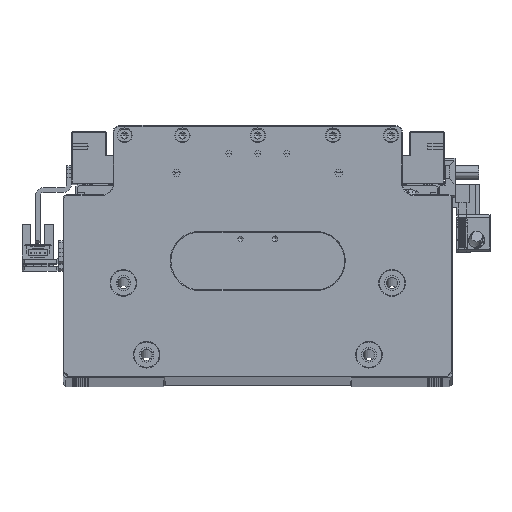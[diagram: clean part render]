
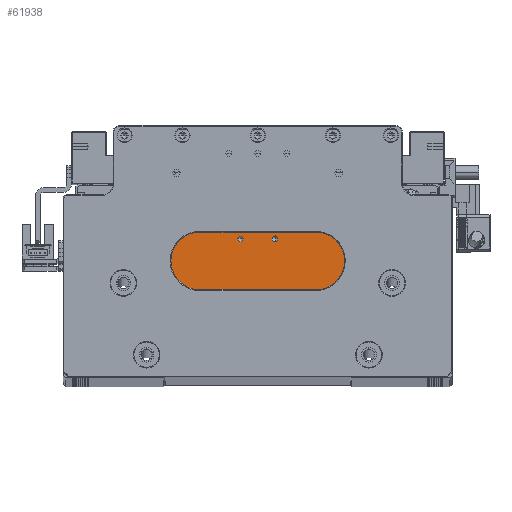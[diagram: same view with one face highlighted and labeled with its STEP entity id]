
A CAD part, top view. The second image highlights one B-rep face of the part: STEP entity #61938.
In plain terms, the highlighted planar face has unit normal (0, 0, 1).
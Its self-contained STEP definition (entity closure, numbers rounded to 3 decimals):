
#92 = VECTOR ( 'NONE', #27201, 1000. ) ;
#2307 = DIRECTION ( 'NONE',  ( 0., 0., -1. ) ) ;
#2342 = EDGE_CURVE ( 'NONE', #100865, #58362, #41398, .T. ) ;
#2742 = ORIENTED_EDGE ( 'NONE', *, *, #2342, .T. ) ;
#4515 = DIRECTION ( 'NONE',  ( 0., 0., -1. ) ) ;
#5444 = CARTESIAN_POINT ( 'NONE',  ( -7.5, -8., 125. ) ) ;
#6302 = DIRECTION ( 'NONE',  ( -1., 0., 0. ) ) ;
#7083 = LINE ( 'NONE', #49090, #79369 ) ;
#10473 = CIRCLE ( 'NONE', #57200, 1.25 ) ;
#11569 = DIRECTION ( 'NONE',  ( -1., 0., 0. ) ) ;
#12328 = VECTOR ( 'NONE', #109025, 1000. ) ;
#13981 = DIRECTION ( 'NONE',  ( 0., 1., 0. ) ) ;
#14222 = CARTESIAN_POINT ( 'NONE',  ( -45., 0., 125. ) ) ;
#14903 = DIRECTION ( 'NONE',  ( 1., 0., 0. ) ) ;
#15203 = EDGE_CURVE ( 'NONE', #42259, #76106, #41231, .T. ) ;
#16249 = VECTOR ( 'NONE', #13981, 1000. ) ;
#17624 = AXIS2_PLACEMENT_3D ( 'NONE', #61005, #4515, #70480 ) ;
#18166 = VERTEX_POINT ( 'NONE', #73660 ) ;
#18176 = DIRECTION ( 'NONE',  ( 0., 0., -1. ) ) ;
#20321 = VERTEX_POINT ( 'NONE', #97266 ) ;
#25304 = VERTEX_POINT ( 'NONE', #56036 ) ;
#27201 = DIRECTION ( 'NONE',  ( 0., -1., 0. ) ) ;
#27604 = ORIENTED_EDGE ( 'NONE', *, *, #120031, .T. ) ;
#28263 = AXIS2_PLACEMENT_3D ( 'NONE', #63126, #91495, #35087 ) ;
#30954 = CIRCLE ( 'NONE', #17624, 1.25 ) ;
#34342 = CARTESIAN_POINT ( 'NONE',  ( 0., 0., 125. ) ) ;
#35087 = DIRECTION ( 'NONE',  ( 1., 0., 0. ) ) ;
#40131 = ORIENTED_EDGE ( 'NONE', *, *, #108868, .T. ) ;
#40154 = VERTEX_POINT ( 'NONE', #92571 ) ;
#41231 = LINE ( 'NONE', #34342, #44187 ) ;
#41351 = LINE ( 'NONE', #51137, #16249 ) ;
#41398 = CIRCLE ( 'NONE', #55868, 1.25 ) ;
#42259 = VERTEX_POINT ( 'NONE', #93203 ) ;
#44187 = VECTOR ( 'NONE', #6302, 1000. ) ;
#45774 = CARTESIAN_POINT ( 'NONE',  ( -33.5, 0., 125. ) ) ;
#46815 = CARTESIAN_POINT ( 'NONE',  ( 45., -8., 125. ) ) ;
#48007 = LINE ( 'NONE', #68030, #98056 ) ;
#49090 = CARTESIAN_POINT ( 'NONE',  ( 33.5, 0., 125. ) ) ;
#50234 = LINE ( 'NONE', #45774, #92 ) ;
#51137 = CARTESIAN_POINT ( 'NONE',  ( 45., 0., 125. ) ) ;
#51491 = VERTEX_POINT ( 'NONE', #107622 ) ;
#53640 = PLANE ( 'NONE',  #28263 ) ;
#54816 = ORIENTED_EDGE ( 'NONE', *, *, #108463, .T. ) ;
#55083 = LINE ( 'NONE', #14222, #105155 ) ;
#55868 = AXIS2_PLACEMENT_3D ( 'NONE', #5444, #71403, #14903 ) ;
#56036 = CARTESIAN_POINT ( 'NONE',  ( 8.75, -8., 125. ) ) ;
#57200 = AXIS2_PLACEMENT_3D ( 'NONE', #74709, #18176, #84133 ) ;
#58362 = VERTEX_POINT ( 'NONE', #114653 ) ;
#58787 = CARTESIAN_POINT ( 'NONE',  ( -7.5, -8., 125. ) ) ;
#59499 = CARTESIAN_POINT ( 'NONE',  ( -33.5, 0., 125. ) ) ;
#60334 = EDGE_CURVE ( 'NONE', #20321, #18166, #48007, .T. ) ;
#61005 = CARTESIAN_POINT ( 'NONE',  ( 7.5, -8., 125. ) ) ;
#61024 = EDGE_CURVE ( 'NONE', #107163, #70302, #94978, .T. ) ;
#61938 = ADVANCED_FACE ( 'NONE', ( #69723, #116793, #94756 ), #53640, .T. ) ;
#62476 = LINE ( 'NONE', #80743, #12328 ) ;
#63126 = CARTESIAN_POINT ( 'NONE',  ( 0., 0., 125. ) ) ;
#64703 = ORIENTED_EDGE ( 'NONE', *, *, #106305, .T. ) ;
#66255 = EDGE_CURVE ( 'NONE', #70302, #42259, #7083, .T. ) ;
#68030 = CARTESIAN_POINT ( 'NONE',  ( 45., -40.2, 125. ) ) ;
#68218 = DIRECTION ( 'NONE',  ( 1., 0., 0. ) ) ;
#69331 = CIRCLE ( 'NONE', #109955, 1.25 ) ;
#69723 = FACE_OUTER_BOUND ( 'NONE', #118916, .T. ) ;
#70302 = VERTEX_POINT ( 'NONE', #107164 ) ;
#70480 = DIRECTION ( 'NONE',  ( 1., 0., 0. ) ) ;
#71403 = DIRECTION ( 'NONE',  ( 0., 0., -1. ) ) ;
#73199 = ORIENTED_EDGE ( 'NONE', *, *, #60334, .F. ) ;
#73660 = CARTESIAN_POINT ( 'NONE',  ( -45., -40.2, 125. ) ) ;
#74709 = CARTESIAN_POINT ( 'NONE',  ( 7.5, -8., 125. ) ) ;
#75733 = ORIENTED_EDGE ( 'NONE', *, *, #91285, .T. ) ;
#76106 = VERTEX_POINT ( 'NONE', #59499 ) ;
#79042 = EDGE_CURVE ( 'NONE', #58362, #100865, #69331, .T. ) ;
#79369 = VECTOR ( 'NONE', #114868, 1000. ) ;
#80743 = CARTESIAN_POINT ( 'NONE',  ( 0., -8., 125. ) ) ;
#84133 = DIRECTION ( 'NONE',  ( 1., 0., 0. ) ) ;
#85720 = EDGE_CURVE ( 'NONE', #96720, #25304, #30954, .T. ) ;
#86236 = EDGE_LOOP ( 'NONE', ( #54816, #102457 ) ) ;
#91285 = EDGE_CURVE ( 'NONE', #51491, #18166, #55083, .T. ) ;
#91495 = DIRECTION ( 'NONE',  ( 0., 0., 1. ) ) ;
#92017 = VECTOR ( 'NONE', #108931, 1000. ) ;
#92571 = CARTESIAN_POINT ( 'NONE',  ( -33.5, -8., 125. ) ) ;
#93203 = CARTESIAN_POINT ( 'NONE',  ( 33.5, 0., 125. ) ) ;
#94451 = EDGE_LOOP ( 'NONE', ( #99941, #2742 ) ) ;
#94471 = CARTESIAN_POINT ( 'NONE',  ( -8.75, -8., 125. ) ) ;
#94701 = ORIENTED_EDGE ( 'NONE', *, *, #66255, .T. ) ;
#94756 = FACE_BOUND ( 'NONE', #94451, .T. ) ;
#94978 = LINE ( 'NONE', #99460, #92017 ) ;
#95196 = CARTESIAN_POINT ( 'NONE',  ( 6.25, -8., 125. ) ) ;
#96720 = VERTEX_POINT ( 'NONE', #95196 ) ;
#97266 = CARTESIAN_POINT ( 'NONE',  ( 45., -40.2, 125. ) ) ;
#98056 = VECTOR ( 'NONE', #11569, 1000. ) ;
#99041 = DIRECTION ( 'NONE',  ( 0., -1., 0. ) ) ;
#99460 = CARTESIAN_POINT ( 'NONE',  ( 0., -8., 125. ) ) ;
#99941 = ORIENTED_EDGE ( 'NONE', *, *, #79042, .T. ) ;
#100865 = VERTEX_POINT ( 'NONE', #94471 ) ;
#102457 = ORIENTED_EDGE ( 'NONE', *, *, #85720, .T. ) ;
#105155 = VECTOR ( 'NONE', #99041, 1000. ) ;
#106305 = EDGE_CURVE ( 'NONE', #40154, #51491, #62476, .T. ) ;
#106669 = ORIENTED_EDGE ( 'NONE', *, *, #61024, .T. ) ;
#107163 = VERTEX_POINT ( 'NONE', #46815 ) ;
#107164 = CARTESIAN_POINT ( 'NONE',  ( 33.5, -8., 125. ) ) ;
#107622 = CARTESIAN_POINT ( 'NONE',  ( -45., -8., 125. ) ) ;
#108463 = EDGE_CURVE ( 'NONE', #25304, #96720, #10473, .T. ) ;
#108868 = EDGE_CURVE ( 'NONE', #20321, #107163, #41351, .T. ) ;
#108931 = DIRECTION ( 'NONE',  ( -1., 0., 0. ) ) ;
#109025 = DIRECTION ( 'NONE',  ( -1., 0., 0. ) ) ;
#109955 = AXIS2_PLACEMENT_3D ( 'NONE', #58787, #2307, #68218 ) ;
#110351 = ORIENTED_EDGE ( 'NONE', *, *, #15203, .T. ) ;
#114653 = CARTESIAN_POINT ( 'NONE',  ( -6.25, -8., 125. ) ) ;
#114868 = DIRECTION ( 'NONE',  ( 0., 1., 0. ) ) ;
#116793 = FACE_BOUND ( 'NONE', #86236, .T. ) ;
#118916 = EDGE_LOOP ( 'NONE', ( #64703, #75733, #73199, #40131, #106669, #94701, #110351, #27604 ) ) ;
#120031 = EDGE_CURVE ( 'NONE', #76106, #40154, #50234, .T. ) ;
